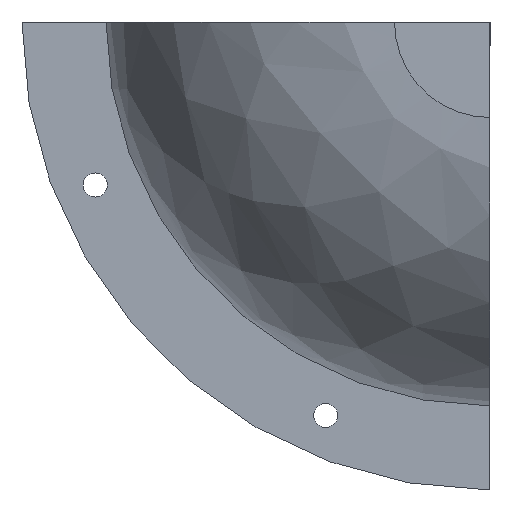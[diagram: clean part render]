
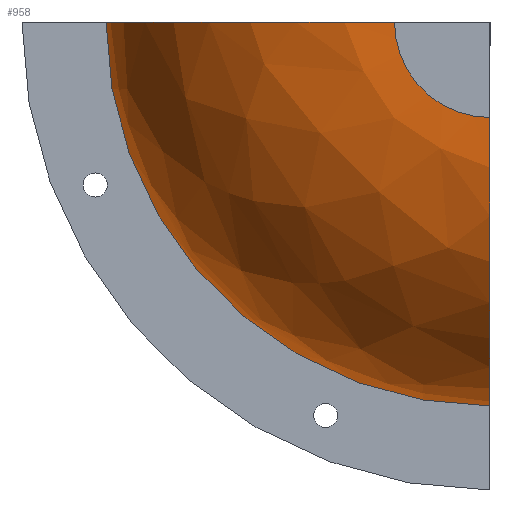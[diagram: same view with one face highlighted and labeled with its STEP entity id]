
A CAD part, front view. The second image highlights one B-rep face of the part: STEP entity #958.
In plain terms, the highlighted free-form (B-spline) face has degree [2, 2] with [5, 9] control points.
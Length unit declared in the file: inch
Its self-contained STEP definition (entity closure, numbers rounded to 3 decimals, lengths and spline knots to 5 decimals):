
#850=CARTESIAN_POINT('',(11.09694,-7.85355,-7.98762));
#851=VERTEX_POINT('',#850);
#852=CARTESIAN_POINT('',(3.10932,-7.85355,0.0));
#853=VERTEX_POINT('',#852);
#854=CARTESIAN_POINT('',(11.09694,-7.85355,0.0));
#855=DIRECTION('',(0.0,1.0,0.0));
#856=DIRECTION('',(-1.0,0.0,0.0));
#857=AXIS2_PLACEMENT_3D('',#854,#855,#856);
#858=CIRCLE('',#857,7.98762);
#859=EDGE_CURVE('',#851,#853,#858,.T.);
#877=CARTESIAN_POINT('',(11.09694,-13.51477,0.));
#878=CARTESIAN_POINT('',(11.09694,-14.54226,-2.92654));
#879=CARTESIAN_POINT('',(11.09694,-12.74874,-5.45708));
#880=CARTESIAN_POINT('',(11.09694,-10.95522,-7.98762));
#881=CARTESIAN_POINT('',(11.09694,-7.85355,-7.98762));
#882=CARTESIAN_POINT('',(11.09694,-13.51477,0.));
#883=CARTESIAN_POINT('',(14.02347,-14.54226,-2.92654));
#884=CARTESIAN_POINT('',(16.55401,-12.74874,-5.45708));
#885=CARTESIAN_POINT('',(19.08456,-10.95522,-7.98762));
#886=CARTESIAN_POINT('',(19.08456,-7.85355,-7.98762));
#887=CARTESIAN_POINT('',(11.09694,-13.51477,0.));
#888=CARTESIAN_POINT('',(14.02347,-14.54226,0.));
#889=CARTESIAN_POINT('',(16.55401,-12.74874,0.));
#890=CARTESIAN_POINT('',(19.08456,-10.95522,0.));
#891=CARTESIAN_POINT('',(19.08456,-7.85355,0.));
#892=CARTESIAN_POINT('',(11.09694,-13.51477,0.));
#893=CARTESIAN_POINT('',(14.02347,-14.54226,2.92654));
#894=CARTESIAN_POINT('',(16.55401,-12.74874,5.45708));
#895=CARTESIAN_POINT('',(19.08456,-10.95522,7.98762));
#896=CARTESIAN_POINT('',(19.08456,-7.85355,7.98762));
#897=CARTESIAN_POINT('',(11.09694,-13.51477,0.));
#898=CARTESIAN_POINT('',(11.09694,-14.54226,2.92654));
#899=CARTESIAN_POINT('',(11.09694,-12.74874,5.45708));
#900=CARTESIAN_POINT('',(11.09694,-10.95522,7.98762));
#901=CARTESIAN_POINT('',(11.09694,-7.85355,7.98762));
#902=CARTESIAN_POINT('',(11.09694,-13.51477,0.));
#903=CARTESIAN_POINT('',(8.1704,-14.54226,2.92654));
#904=CARTESIAN_POINT('',(5.63986,-12.74874,5.45708));
#905=CARTESIAN_POINT('',(3.10932,-10.95522,7.98762));
#906=CARTESIAN_POINT('',(3.10932,-7.85355,7.98762));
#907=CARTESIAN_POINT('',(11.09694,-13.51477,0.));
#908=CARTESIAN_POINT('',(8.1704,-14.54226,0.));
#909=CARTESIAN_POINT('',(5.63986,-12.74874,0.));
#910=CARTESIAN_POINT('',(3.10932,-10.95522,0.));
#911=CARTESIAN_POINT('',(3.10932,-7.85355,0.));
#912=CARTESIAN_POINT('',(11.09694,-13.51477,0.));
#913=CARTESIAN_POINT('',(8.1704,-14.54226,-2.92654));
#914=CARTESIAN_POINT('',(5.63986,-12.74874,-5.45708));
#915=CARTESIAN_POINT('',(3.10932,-10.95522,-7.98762));
#916=CARTESIAN_POINT('',(3.10932,-7.85355,-7.98762));
#917=CARTESIAN_POINT('',(11.09694,-13.51477,0.));
#918=CARTESIAN_POINT('',(11.09694,-14.54226,-2.92654));
#919=CARTESIAN_POINT('',(11.09694,-12.74874,-5.45708));
#920=CARTESIAN_POINT('',(11.09694,-10.95522,-7.98762));
#921=CARTESIAN_POINT('',(11.09694,-7.85355,-7.98762));
#929=(BOUNDED_SURFACE()B_SPLINE_SURFACE(2,2,((#877,#882,#887,#892,#897,#902,#907,#912,#917),(#878,#883,#888,#893,#898,#903,#908,#913,#918),(#879,#884,#889,#894,#899,#904,#909,#914,#919),(#880,#885,#890,#895,#900,#905,#910,#915,#920),(#881,#886,#891,#896,#901,#906,#911,#916,#921)),.UNSPECIFIED.,.F.,.T.,.U.)B_SPLINE_SURFACE_WITH_KNOTS((3,2,3),(3,2,2,2,3),(-1.90845,-0.95422,0.),(0.0,1.5708,3.14159,4.71239,6.28319),.UNSPECIFIED.)GEOMETRIC_REPRESENTATION_ITEM()RATIONAL_B_SPLINE_SURFACE(((1.0,0.707,1.0,0.707,1.0,0.707,1.0,0.707,1.0),(0.888,0.628,0.888,0.628,0.888,0.628,0.888,0.628,0.888),(1.0,0.707,1.0,0.707,1.0,0.707,1.0,0.707,1.0),(0.888,0.628,0.888,0.628,0.888,0.628,0.888,0.628,0.888),(1.0,0.707,1.0,0.707,1.0,0.707,1.0,0.707,1.0)))REPRESENTATION_ITEM('')SURFACE());
#930=CARTESIAN_POINT('',(11.09694,-13.85355,-1.98762));
#931=VERTEX_POINT('',#930);
#932=CARTESIAN_POINT('',(9.10932,-13.85355,0.0));
#933=VERTEX_POINT('',#932);
#934=CARTESIAN_POINT('',(11.09694,-13.85355,0.0));
#935=DIRECTION('',(0.0,1.0,0.0));
#936=DIRECTION('',(-1.0,0.0,0.0));
#937=AXIS2_PLACEMENT_3D('',#934,#935,#936);
#938=CIRCLE('',#937,1.98762);
#939=EDGE_CURVE('',#931,#933,#938,.T.);
#940=ORIENTED_EDGE('',*,*,#939,.T.);
#941=CARTESIAN_POINT('',(9.10932,-7.85355,0.0));
#942=DIRECTION('',(0.0,0.0,1.0));
#943=DIRECTION('',(1.0,0.0,0.0));
#944=AXIS2_PLACEMENT_3D('',#941,#942,#943);
#945=CIRCLE('',#944,6.);
#946=EDGE_CURVE('',#853,#933,#945,.T.);
#947=ORIENTED_EDGE('',*,*,#946,.F.);
#948=ORIENTED_EDGE('',*,*,#859,.F.);
#949=CARTESIAN_POINT('',(11.09694,-7.85355,-1.98762));
#950=DIRECTION('',(-1.0,0.0,0.0));
#951=DIRECTION('',(0.0,0.0,1.0));
#952=AXIS2_PLACEMENT_3D('',#949,#950,#951);
#953=CIRCLE('',#952,6.);
#954=EDGE_CURVE('',#851,#931,#953,.T.);
#955=ORIENTED_EDGE('',*,*,#954,.T.);
#956=EDGE_LOOP('',(#940,#947,#948,#955));
#957=FACE_OUTER_BOUND('',#956,.T.);
#958=ADVANCED_FACE('',(#957),#929,.T.);
